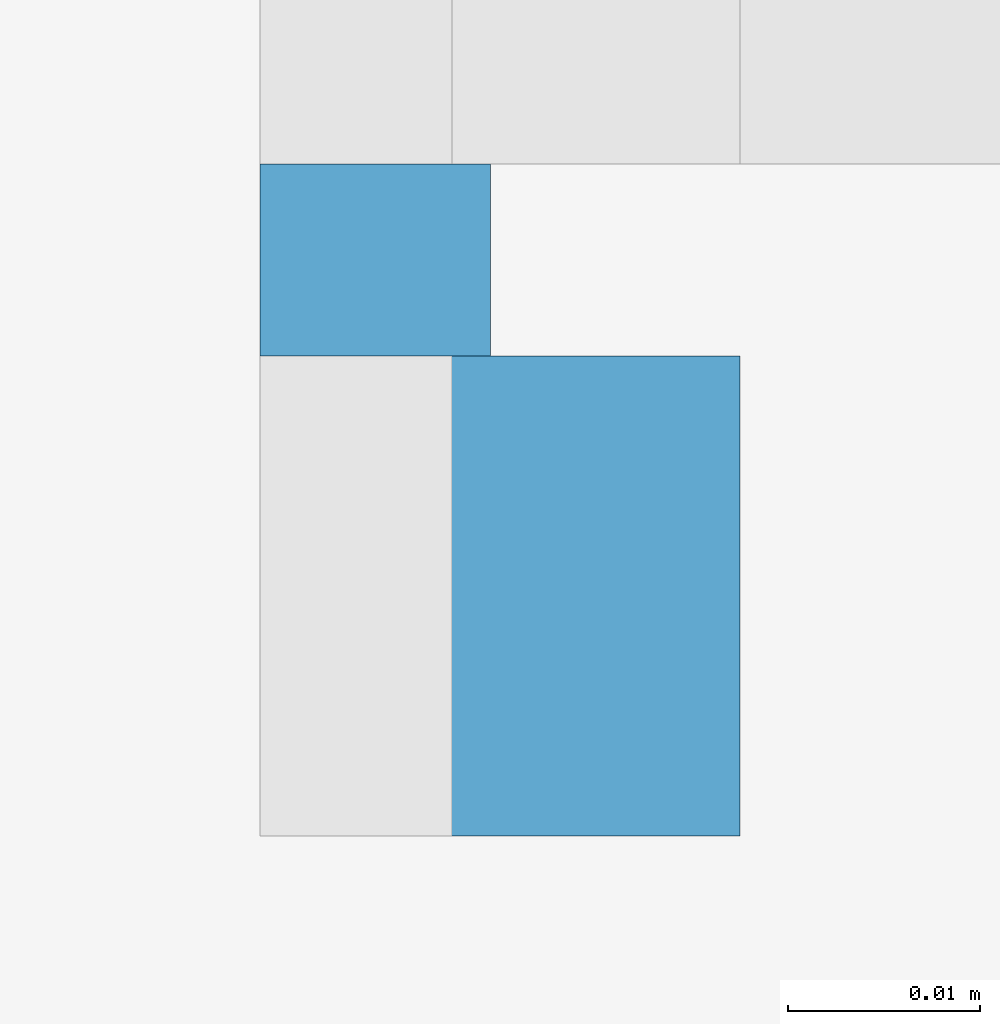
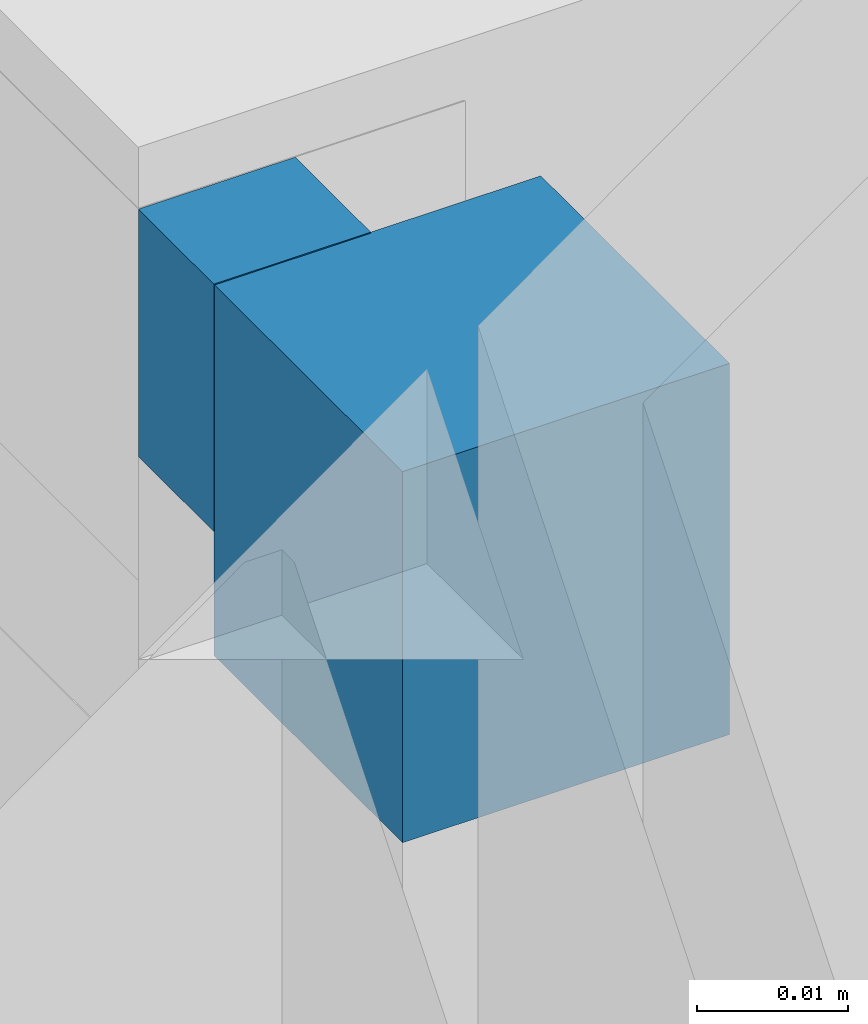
# One storey, part 8 of 37: 2 members, 1 element without a shape of its own.
"""IFC2X3 building model written with IfcOpenShell, lengths in millimetres."""

from ifc_helpers import new_model, entity, si_unit, converted_unit, derived_unit, direction, frame, origin, origin_with_axes, origin_2d_with_axis, place, context, subcontext, project, spatial, rectangle, extrude, source, transform, mapped, material, type_object, element, aggregate, save


model = new_model("IFC2X3")

# Units and contexts
model_context = context("Model", 3, precision=0.01, world=frame((0.0, 4.29681676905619e-09, 0.0)), true_north=direction((4.01073788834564e-13, 1.0)))
plan_context = context("Plan", 3, precision=0.01, world=frame((0.0, 4.29681676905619e-09, 0.0)), true_north=direction((4.01073788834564e-13, 1.0)))
body_context = subcontext(model_context, "Body", "Model", "MODEL_VIEW")
ifc_project = project(units=[converted_unit("PLANEANGLEUNIT", "DEGREE", entity("IfcPositiveLengthMeasure", 0.0174532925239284), si_unit("PLANEANGLEUNIT", "RADIAN"), dimensions=[0, 0, 0, 0, 0, 0, 0]), si_unit("AREAUNIT", "SQUARE_METRE"), si_unit("LENGTHUNIT", "METRE", prefix="MILLI"), si_unit("MASSUNIT", "GRAM", prefix="KILO"), si_unit("POWERUNIT", "WATT"), si_unit("PRESSUREUNIT", "PASCAL"), si_unit("FORCEUNIT", "NEWTON", prefix="KILO"), si_unit("ELECTRICVOLTAGEUNIT", "VOLT"), si_unit("ELECTRICCURRENTUNIT", "AMPERE"), si_unit("THERMODYNAMICTEMPERATUREUNIT", "DEGREE_CELSIUS"), si_unit("TIMEUNIT", "SECOND"), si_unit("VOLUMEUNIT", "CUBIC_METRE"), derived_unit("LINEARVELOCITYUNIT", [(si_unit("LENGTHUNIT", "METRE"), 1), (si_unit("TIMEUNIT", "SECOND"), -1)]), derived_unit("VOLUMETRICFLOWRATEUNIT", [(si_unit("VOLUMEUNIT", "CUBIC_METRE"), 1), (si_unit("TIMEUNIT", "SECOND"), -1)]), derived_unit("THERMALTRANSMITTANCEUNIT", [(si_unit("POWERUNIT", "WATT"), 1), (si_unit("THERMODYNAMICTEMPERATUREUNIT", "KELVIN"), -1), (si_unit("AREAUNIT", "SQUARE_METRE"), -1)]), derived_unit("SOUNDPRESSUREUNIT", [(si_unit("PRESSUREUNIT", "PASCAL"), 1)])], contexts=[model_context, plan_context])

# Site, building, storey
site_placement = place(None, origin_with_axes())
site = spatial("IfcSite", under=ifc_project, at=site_placement, Name="ENGM", CompositionType="ELEMENT")
building_placement = place(site_placement, origin_with_axes())
building = spatial("IfcBuilding", under=site, at=building_placement, Name="TS", CompositionType="ELEMENT")
storey_placement = place(building_placement, frame((0.0, 0.0, 210900.0), z_axis=(0.0, 0.0, 1.0), x_axis=(1.0, 0.0, 0.0)))
storey = spatial("IfcBuildingStorey", under=building, at=storey_placement, Name="Nivå F", CompositionType="ELEMENT", Elevation=210900.0)

# Curtain wall, members
curtain_wall_type = type_object("IfcCurtainWallType", Name="Curtain Wall:A242 - IGV - Glass - 10 mm", PredefinedType="NOTDEFINED")
curtain_wall_placement = place(storey_placement, frame((0.0, 0.0, -210900.0), z_axis=(0.0, 0.0, 1.0), x_axis=(1.0, 0.0, 0.0)))
curtain_wall = element("IfcCurtainWall", 1, at=curtain_wall_placement, inside=storey, type_object=curtain_wall_type, Name="Curtain Wall:A242 - IGV - Glass - 10 mm", ObjectType="Curtain Wall:A242 - IGV - Glass - 10 mm")
ifc_material_1 = material(Name="Fuge l")
member_type_1 = type_object("IfcMemberType", Name="Rectangular Mullion:A233 - Fuge 10 mm", PredefinedType="MULLION", material=ifc_material_1)
shared_shape_1 = source(origin(), body_context, "Body", "SweptSolid", [
    extrude(rectangle(XDim=11.9999999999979, YDim=10.0, at=origin_2d_with_axis()), frame((0.0, 6.0, -20.0), z_axis=(0.0, 0.0, 1.0), x_axis=(0.0, 1.0, 0.0)), (0.0, 0.0, 1.0), 19.9999999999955),
])
member_1_placement = place(curtain_wall_placement, frame((524920.000000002, 457789.999999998, 213380.0), z_axis=(0.0, 0.0, -1.0), x_axis=(0.0, 1.0, 0.0)))
member_1 = element("IfcMember", 2, at=member_1_placement, type_object=member_type_1, material=ifc_material_1, Name="Rectangular Mullion:A233 - Fuge 10 mm", ObjectType="Rectangular Mullion:A233 - Fuge 10 mm", context=body_context, shape_type="MappedRepresentation", body=[
    mapped(shared_shape_1, transform((0.0, 0.0, 0.0), scale=1.0)),
])
ifc_material_2 = material(Name="T2 - Rubber")
member_type_2 = type_object("IfcMemberType", Name="Rectangular Mullion:A233 - Sprosse - 00(post)+25(fuge inkl glass) x 30 mm", PredefinedType="MULLION", material=ifc_material_2)
shared_shape_2 = source(origin(), body_context, "Body", "SweptSolid", [
    extrude(rectangle(XDim=30.0, YDim=25.0, at=origin_2d_with_axis()), frame((-15.0, 12.5, -25.0), z_axis=(0.0, 0.0, 1.0), x_axis=(-1.0, 0.0, 0.0)), (0.0, 0.0, 1.0), 25.0000000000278),
])
member_2_placement = place(curtain_wall_placement, frame((524920.000000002, 457784.999999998, 213400.0), z_axis=(0.0, 1.0, 0.0), x_axis=(0.0, 0.0, 1.0)))
member_2 = element("IfcMember", 3, at=member_2_placement, type_object=member_type_2, material=ifc_material_2, Name="Rectangular Mullion:A233 - Sprosse - 00(post)+25(fuge inkl glass) x 30 mm", ObjectType="Rectangular Mullion:A233 - Sprosse - 00(post)+25(fuge inkl glass) x 30 mm", context=body_context, shape_type="MappedRepresentation", body=[
    mapped(shared_shape_2, transform((0.0, 0.0, 0.0), scale=1.0)),
])
aggregate(curtain_wall, [member_1, member_2])

save(model, "model.ifc")
